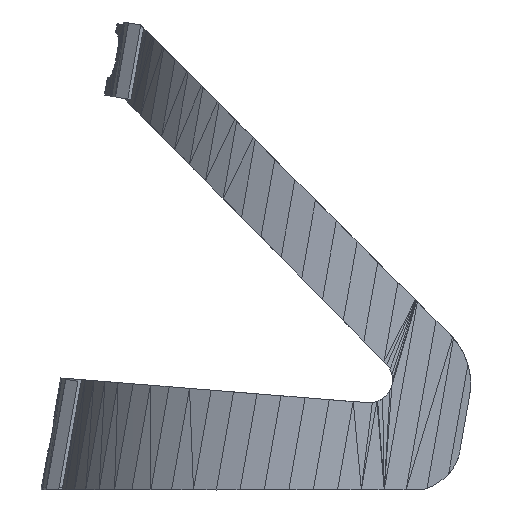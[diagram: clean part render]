
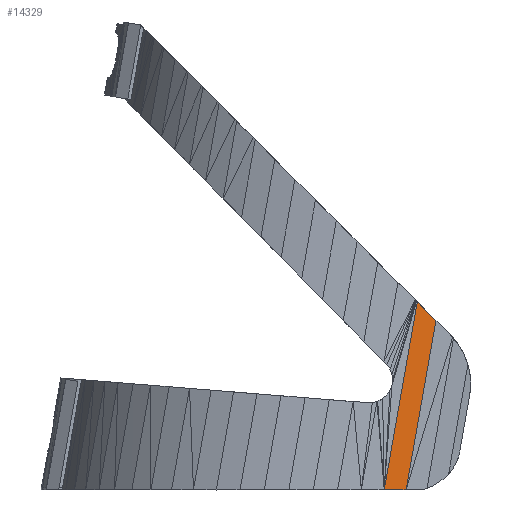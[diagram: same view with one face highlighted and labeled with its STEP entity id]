
A CAD part, front view. The second image highlights one B-rep face of the part: STEP entity #14329.
In plain terms, the highlighted planar face has unit normal (0.447, -0.891, -0.079).
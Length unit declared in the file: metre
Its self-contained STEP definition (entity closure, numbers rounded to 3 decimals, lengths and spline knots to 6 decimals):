
#316=ORIENTED_EDGE('',*,*,#4472,.T.);
#317=ORIENTED_EDGE('',*,*,#4473,.T.);
#318=ORIENTED_EDGE('',*,*,#4474,.F.);
#319=ORIENTED_EDGE('',*,*,#4475,.F.);
#320=ORIENTED_EDGE('',*,*,#4439,.T.);
#4439=EDGE_CURVE('',#6519,#6518,#7579,.T.);
#4472=EDGE_CURVE('',#6518,#6547,#7592,.T.);
#4473=EDGE_CURVE('',#6547,#6548,#7593,.T.);
#4474=EDGE_CURVE('',#6549,#6548,#7594,.T.);
#4475=EDGE_CURVE('',#6519,#6549,#7595,.T.);
#6518=VERTEX_POINT('',#20424);
#6519=VERTEX_POINT('',#20426);
#6547=VERTEX_POINT('',#20510);
#6548=VERTEX_POINT('',#20512);
#6549=VERTEX_POINT('',#20514);
#7579=LINE('',#20425,#9444);
#7592=LINE('',#20509,#9457);
#7593=LINE('',#20511,#9458);
#7594=LINE('',#20513,#9459);
#7595=LINE('',#20515,#9460);
#9444=VECTOR('',#16447,1.);
#9457=VECTOR('',#16506,1.);
#9458=VECTOR('',#16507,1.);
#9459=VECTOR('',#16508,1.);
#9460=VECTOR('',#16509,1.);
#11288=EDGE_LOOP('',(#316,#317,#318,#319,#320));
#12304=FACE_BOUND('',#11288,.T.);
#13320=PLANE('',#15374);
#14329=ADVANCED_FACE('',(#12304),#13320,.T.);
#15374=AXIS2_PLACEMENT_3D('',#20508,#16504,#16505);
#16447=DIRECTION('',(0.174,0.,0.985));
#16504=DIRECTION('',(0.447,-0.891,-0.079));
#16505=DIRECTION('',(-0.894,-0.449,0.));
#16506=DIRECTION('',(0.174,0.,0.985));
#16507=DIRECTION('',(-0.653,-0.385,0.653));
#16508=DIRECTION('',(0.174,0.,0.985));
#16509=DIRECTION('',(-0.894,-0.449,0.));
#20424=CARTESIAN_POINT('',(0.046173,-0.009838,0.000093));
#20425=CARTESIAN_POINT('',(0.0487,-0.009838,0.014425));
#20426=CARTESIAN_POINT('',(0.046171,-0.009838,0.000088));
#20508=CARTESIAN_POINT('',(0.047711,-0.010349,0.014599));
#20509=CARTESIAN_POINT('',(0.0487,-0.009838,0.014425));
#20510=CARTESIAN_POINT('',(0.051348,-0.009838,0.029444));
#20511=CARTESIAN_POINT('',(0.055992,-0.007096,0.0248));
#20512=CARTESIAN_POINT('',(0.048128,-0.011739,0.032664));
#20513=CARTESIAN_POINT('',(0.042383,-0.011739,0.000088));
#20514=CARTESIAN_POINT('',(0.042383,-0.011739,0.000088));
#20515=CARTESIAN_POINT('',(0.036092,-0.014896,0.000088));
